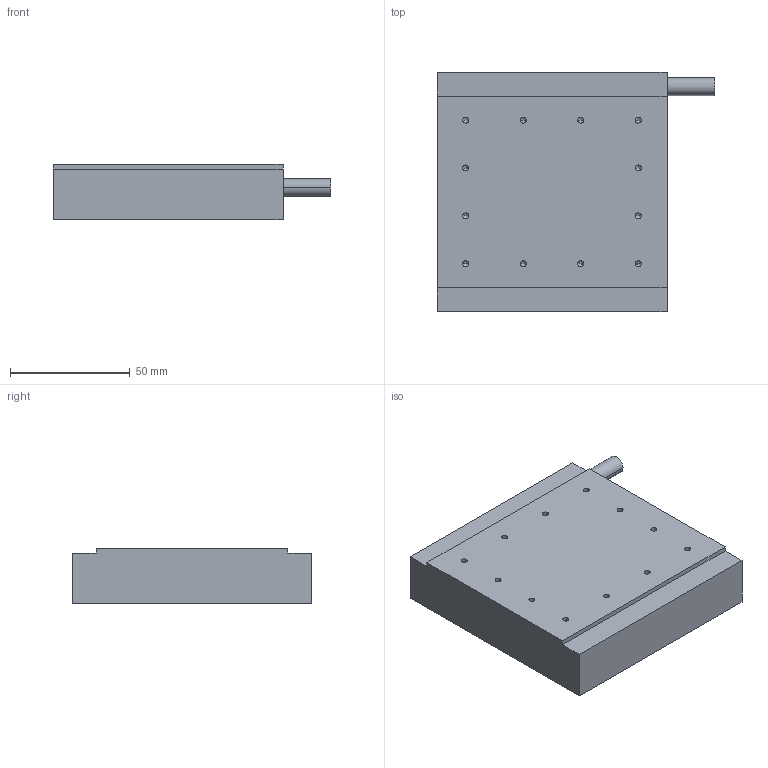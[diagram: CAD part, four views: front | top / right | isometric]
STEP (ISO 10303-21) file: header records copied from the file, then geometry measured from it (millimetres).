
FILE_DESCRIPTION (( 'STEP AP214' ), '1' );
FILE_NAME ('B-CJM080B-02.STEP', '2025-09-05T11:19:11', ( '' ), ( '' ), 'SwSTEP 2.0', 'SolidWorks 2016', '' );
FILE_SCHEMA (( 'AUTOMOTIVE_DESIGN' ));
Length unit declared in the file: millimetre
Products named in the file (1): B-CJM080B-02
Bounding box: 116 x 100 x 23.2 mm (x, y, z)
Volume: 219278.3 mm3; surface area: 29471.6 mm2
Topology: 1 solids, 1 shells, 85 faces, 206 edges, 108 vertices
Faces by surface type: cone 40, cylinder 34, plane 11
Entity records: 2574 total; most frequent: DIRECTION 422, CARTESIAN_POINT 368, ORIENTED_EDGE 348, EDGE_CURVE 174, AXIS2_PLACEMENT_3D 162, VERTEX_POINT 108, EDGE_LOOP 102, LINE 98
